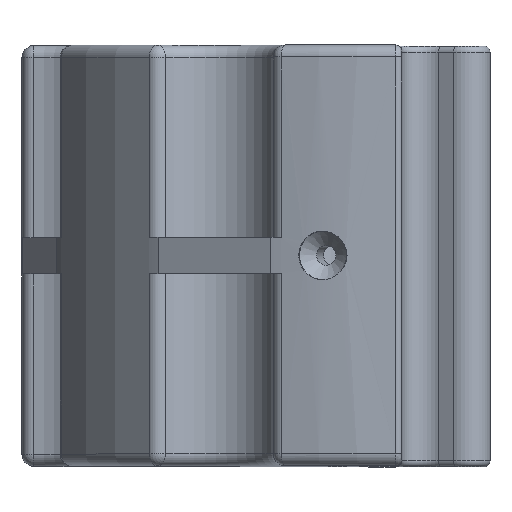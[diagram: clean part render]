
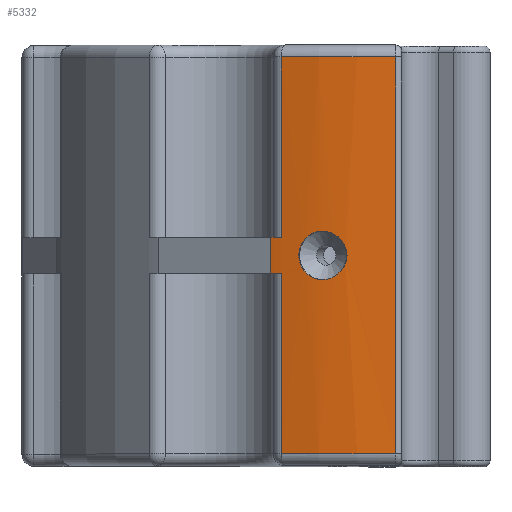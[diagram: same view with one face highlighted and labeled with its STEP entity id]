
A CAD part, top view. The second image highlights one B-rep face of the part: STEP entity #5332.
In plain terms, the highlighted cylindrical face has radius 31.65 mm (diameter 63.3 mm), a partial arc.
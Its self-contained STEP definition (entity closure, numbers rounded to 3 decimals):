
#279=B_SPLINE_CURVE_WITH_KNOTS('',3,(#8639,#8640,#8641,#8642,#8643,#8644,
#8645,#8646,#8647,#8648,#8649),.UNSPECIFIED.,.T.,.F.,(1,1,1,1,1,1,1,1,1,
1,1,1,1,1,1),(-0.005,-0.003,-0.002,
0.,0.002,0.003,0.005,0.006,
0.008,0.009,0.011,0.013,
0.014,0.016,0.017),.UNSPECIFIED.);
#529=LINE('',#8654,#1031);
#530=LINE('',#8658,#1032);
#531=LINE('',#8662,#1033);
#532=LINE('',#8666,#1034);
#1031=VECTOR('',#6505,1000.);
#1032=VECTOR('',#6508,1000.);
#1033=VECTOR('',#6511,1000.);
#1034=VECTOR('',#6514,1000.);
#1634=ORIENTED_EDGE('',*,*,#3220,.F.);
#1635=ORIENTED_EDGE('',*,*,#3221,.T.);
#1636=ORIENTED_EDGE('',*,*,#3222,.T.);
#1637=ORIENTED_EDGE('',*,*,#3223,.T.);
#1638=ORIENTED_EDGE('',*,*,#3224,.T.);
#1639=ORIENTED_EDGE('',*,*,#3225,.T.);
#1640=ORIENTED_EDGE('',*,*,#3226,.F.);
#1641=ORIENTED_EDGE('',*,*,#3227,.T.);
#1642=ORIENTED_EDGE('',*,*,#3228,.T.);
#3220=EDGE_CURVE('',#4007,#4007,#279,.T.);
#3221=EDGE_CURVE('',#4008,#4009,#4345,.T.);
#3222=EDGE_CURVE('',#4009,#4010,#529,.T.);
#3223=EDGE_CURVE('',#4010,#4011,#4346,.F.);
#3224=EDGE_CURVE('',#4011,#4012,#530,.F.);
#3225=EDGE_CURVE('',#4012,#4013,#4347,.F.);
#3226=EDGE_CURVE('',#4014,#4013,#531,.T.);
#3227=EDGE_CURVE('',#4014,#4015,#4348,.T.);
#3228=EDGE_CURVE('',#4015,#4008,#532,.F.);
#4007=VERTEX_POINT('',#8650);
#4008=VERTEX_POINT('',#8652);
#4009=VERTEX_POINT('',#8653);
#4010=VERTEX_POINT('',#8655);
#4011=VERTEX_POINT('',#8657);
#4012=VERTEX_POINT('',#8659);
#4013=VERTEX_POINT('',#8661);
#4014=VERTEX_POINT('',#8663);
#4015=VERTEX_POINT('',#8665);
#4345=CIRCLE('',#5748,31.65);
#4346=CIRCLE('',#5749,31.65);
#4347=CIRCLE('',#5750,31.65);
#4348=CIRCLE('',#5751,31.65);
#4532=EDGE_LOOP('',(#1634));
#4533=EDGE_LOOP('',(#1635,#1636,#1637,#1638,#1639,#1640,#1641,#1642));
#4910=FACE_BOUND('',#4532,.T.);
#4911=FACE_BOUND('',#4533,.T.);
#5258=CYLINDRICAL_SURFACE('',#5747,31.65);
#5332=ADVANCED_FACE('',(#4910,#4911),#5258,.T.);
#5747=AXIS2_PLACEMENT_3D('',#8638,#6501,#6502);
#5748=AXIS2_PLACEMENT_3D('',#8651,#6503,#6504);
#5749=AXIS2_PLACEMENT_3D('',#8656,#6506,#6507);
#5750=AXIS2_PLACEMENT_3D('',#8660,#6509,#6510);
#5751=AXIS2_PLACEMENT_3D('',#8664,#6512,#6513);
#6501=DIRECTION('',(0.,1.,0.));
#6502=DIRECTION('',(0.,0.,1.));
#6503=DIRECTION('',(0.,1.,0.));
#6504=DIRECTION('',(0.,0.,1.));
#6505=DIRECTION('',(0.,1.,0.));
#6506=DIRECTION('',(0.,1.,0.));
#6507=DIRECTION('',(0.,0.,1.));
#6508=DIRECTION('',(0.,1.,0.));
#6509=DIRECTION('',(0.,1.,0.));
#6510=DIRECTION('',(0.,0.,1.));
#6511=DIRECTION('',(0.,1.,0.));
#6512=DIRECTION('',(0.,1.,0.));
#6513=DIRECTION('',(0.,0.,1.));
#6514=DIRECTION('',(0.,1.,0.));
#8638=CARTESIAN_POINT('',(0.,-17.5,0.));
#8639=CARTESIAN_POINT('',(-5.043,1.586,31.253));
#8640=CARTESIAN_POINT('',(-6.607,2.245,30.969));
#8641=CARTESIAN_POINT('',(-8.149,1.586,30.591));
#8642=CARTESIAN_POINT('',(-8.781,0.002,30.406));
#8643=CARTESIAN_POINT('',(-8.149,-1.586,30.591));
#8644=CARTESIAN_POINT('',(-6.607,-2.244,30.969));
#8645=CARTESIAN_POINT('',(-5.047,-1.588,31.253));
#8646=CARTESIAN_POINT('',(-4.392,-0.002,31.342));
#8647=CARTESIAN_POINT('',(-5.043,1.586,31.253));
#8648=CARTESIAN_POINT('',(-6.607,2.245,30.969));
#8649=CARTESIAN_POINT('',(-8.149,1.586,30.591));
#8650=CARTESIAN_POINT('',(-6.603,2.025,30.954));
#8651=CARTESIAN_POINT('',(0.,-16.5,0.));
#8652=CARTESIAN_POINT('',(-10.021,-16.5,30.022));
#8653=CARTESIAN_POINT('',(-0.508,-16.5,31.646));
#8654=CARTESIAN_POINT('',(-0.508,-17.5,31.646));
#8655=CARTESIAN_POINT('',(-0.508,16.5,31.646));
#8656=CARTESIAN_POINT('',(0.,16.5,0.));
#8657=CARTESIAN_POINT('',(-10.021,16.5,30.022));
#8658=CARTESIAN_POINT('',(-10.021,-17.5,30.022));
#8659=CARTESIAN_POINT('',(-10.021,1.5,30.022));
#8660=CARTESIAN_POINT('',(0.,1.5,0.));
#8661=CARTESIAN_POINT('',(-10.908,1.5,29.711));
#8662=CARTESIAN_POINT('',(-10.908,-1.5,29.711));
#8663=CARTESIAN_POINT('',(-10.908,-1.5,29.711));
#8664=CARTESIAN_POINT('',(0.,-1.5,0.));
#8665=CARTESIAN_POINT('',(-10.021,-1.5,30.022));
#8666=CARTESIAN_POINT('',(-10.021,-17.5,30.022));
